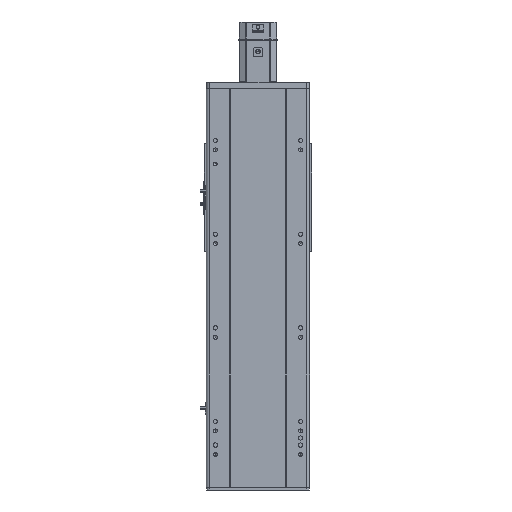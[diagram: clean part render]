
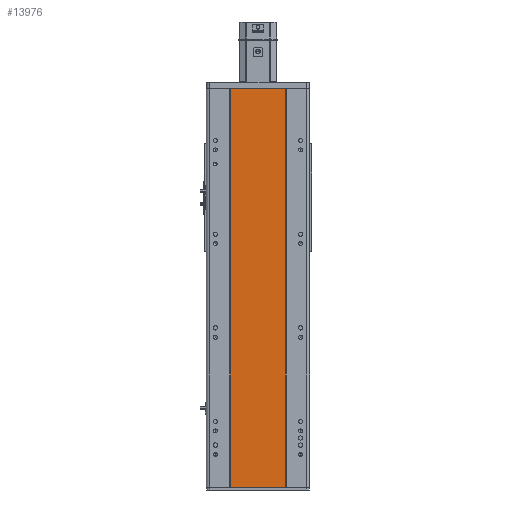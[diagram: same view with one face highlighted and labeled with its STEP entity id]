
A CAD part, front view. The second image highlights one B-rep face of the part: STEP entity #13976.
In plain terms, the highlighted planar face has unit normal (0, -1, 0).
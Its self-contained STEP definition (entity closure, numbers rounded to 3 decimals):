
#795 = LINE ( 'NONE', #31244, #1256 ) ;
#1074 = ORIENTED_EDGE ( 'NONE', *, *, #34367, .T. ) ;
#1188 = LINE ( 'NONE', #16573, #29828 ) ;
#1256 = VECTOR ( 'NONE', #28499, 1000. ) ;
#5116 = DIRECTION ( 'NONE',  ( 0., 1., 0. ) ) ;
#6593 = VECTOR ( 'NONE', #16242, 1000. ) ;
#10709 = CARTESIAN_POINT ( 'NONE',  ( 59., 1., 425.5 ) ) ;
#10848 = FACE_OUTER_BOUND ( 'NONE', #31086, .T. ) ;
#11370 = VERTEX_POINT ( 'NONE', #35425 ) ;
#11399 = CARTESIAN_POINT ( 'NONE',  ( 59., 1., -425.5 ) ) ;
#13526 = EDGE_CURVE ( 'NONE', #26027, #35972, #795, .T. ) ;
#13976 = ADVANCED_FACE ( 'NONE', ( #10848 ), #36516, .F. ) ;
#14472 = EDGE_CURVE ( 'NONE', #28124, #11370, #1188, .T. ) ;
#15681 = ORIENTED_EDGE ( 'NONE', *, *, #14472, .F. ) ;
#15765 = VECTOR ( 'NONE', #25110, 1000. ) ;
#16242 = DIRECTION ( 'NONE',  ( 0., 0., -1. ) ) ;
#16573 = CARTESIAN_POINT ( 'NONE',  ( -59., 1., 425.5 ) ) ;
#20485 = ORIENTED_EDGE ( 'NONE', *, *, #13526, .T. ) ;
#21586 = CARTESIAN_POINT ( 'NONE',  ( -59., 1., -425.5 ) ) ;
#22457 = DIRECTION ( 'NONE',  ( -1., 0., 0. ) ) ;
#23068 = CARTESIAN_POINT ( 'NONE',  ( -59., 1., 425.5 ) ) ;
#25064 = CARTESIAN_POINT ( 'NONE',  ( -59., 1., 425.5 ) ) ;
#25110 = DIRECTION ( 'NONE',  ( 0., 0., -1. ) ) ;
#26027 = VERTEX_POINT ( 'NONE', #21586 ) ;
#27732 = ORIENTED_EDGE ( 'NONE', *, *, #33759, .F. ) ;
#28124 = VERTEX_POINT ( 'NONE', #23068 ) ;
#28499 = DIRECTION ( 'NONE',  ( 1., 0., 0. ) ) ;
#29701 = LINE ( 'NONE', #25064, #6593 ) ;
#29772 = LINE ( 'NONE', #10709, #15765 ) ;
#29828 = VECTOR ( 'NONE', #30855, 1000. ) ;
#30276 = AXIS2_PLACEMENT_3D ( 'NONE', #36640, #5116, #22457 ) ;
#30855 = DIRECTION ( 'NONE',  ( 1., 0., 0. ) ) ;
#31086 = EDGE_LOOP ( 'NONE', ( #20485, #27732, #15681, #1074 ) ) ;
#31244 = CARTESIAN_POINT ( 'NONE',  ( -59., 1., -425.5 ) ) ;
#33759 = EDGE_CURVE ( 'NONE', #11370, #35972, #29772, .T. ) ;
#34367 = EDGE_CURVE ( 'NONE', #28124, #26027, #29701, .T. ) ;
#35425 = CARTESIAN_POINT ( 'NONE',  ( 59., 1., 425.5 ) ) ;
#35972 = VERTEX_POINT ( 'NONE', #11399 ) ;
#36516 = PLANE ( 'NONE',  #30276 ) ;
#36640 = CARTESIAN_POINT ( 'NONE',  ( -59., 1., 425.5 ) ) ;
